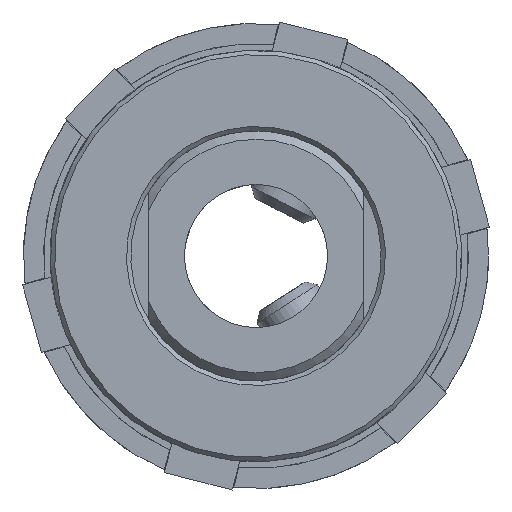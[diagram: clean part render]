
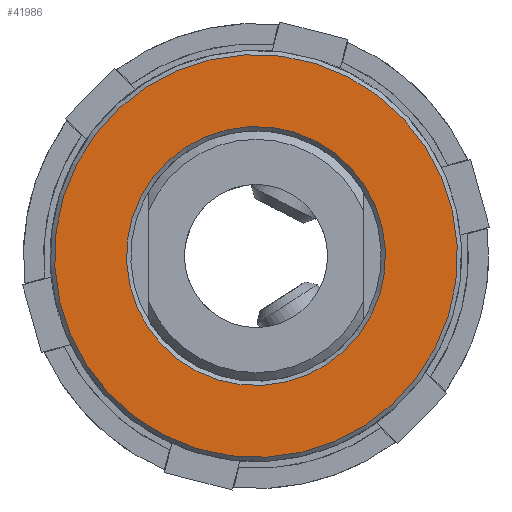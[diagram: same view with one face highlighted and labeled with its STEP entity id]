
A CAD part, front view. The second image highlights one B-rep face of the part: STEP entity #41986.
In plain terms, the highlighted planar face has unit normal (0, -1, 0).
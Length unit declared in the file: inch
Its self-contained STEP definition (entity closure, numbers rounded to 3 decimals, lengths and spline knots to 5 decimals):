
#41955=CARTESIAN_POINT('',(0.70375,-0.1875,0.));
#41956=VERTEX_POINT('',#41955);
#41957=CARTESIAN_POINT('',(0.,-0.1875,0.0));
#41958=DIRECTION('',(0.0,1.0,0.0));
#41959=DIRECTION('',(-1.0,0.0,0.0));
#41960=AXIS2_PLACEMENT_3D('',#41957,#41958,#41959);
#41961=CIRCLE('',#41960,0.70375);
#41962=EDGE_CURVE('',#41956,#41956,#41961,.T.);
#41967=CARTESIAN_POINT('',(0.57813,-0.1875,0.0));
#41968=DIRECTION('',(0.0,-1.0,0.0));
#41969=DIRECTION('',(0.0,0.0,-1.0));
#41970=AXIS2_PLACEMENT_3D('',#41967,#41968,#41969);
#41971=PLANE('',#41970);
#41972=ORIENTED_EDGE('',*,*,#41962,.F.);
#41973=EDGE_LOOP('',(#41972));
#41974=FACE_OUTER_BOUND('',#41973,.T.);
#41975=CARTESIAN_POINT('',(0.4525,-0.1875,0.));
#41976=VERTEX_POINT('',#41975);
#41977=CARTESIAN_POINT('',(0.,-0.1875,0.0));
#41978=DIRECTION('',(0.0,-1.0,0.0));
#41979=DIRECTION('',(-1.0,0.0,0.0));
#41980=AXIS2_PLACEMENT_3D('',#41977,#41978,#41979);
#41981=CIRCLE('',#41980,0.4525);
#41982=EDGE_CURVE('',#41976,#41976,#41981,.T.);
#41983=ORIENTED_EDGE('',*,*,#41982,.F.);
#41984=EDGE_LOOP('',(#41983));
#41985=FACE_BOUND('',#41984,.T.);
#41986=ADVANCED_FACE('',(#41974,#41985),#41971,.T.);
